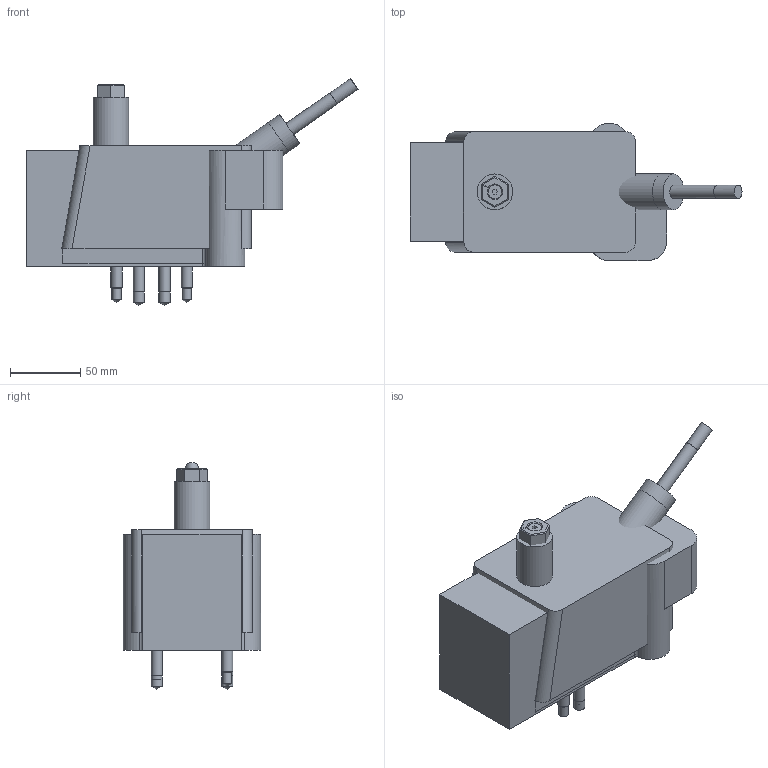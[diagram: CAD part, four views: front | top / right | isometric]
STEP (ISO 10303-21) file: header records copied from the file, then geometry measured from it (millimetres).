
FILE_DESCRIPTION(('STEP AP214'),'1');
FILE_NAME('0011_EZ-35-S-L_201209.stp','2020-12-14T12:30:07',(' '),(' '),'Spatial InterOp 3D',' ',' ');
FILE_SCHEMA(('AUTOMOTIVE_DESIGN { 1 0 10303 214 1 1 1 1 }'));
Length unit declared in the file: metre
Products named in the file (21): 1583517334; 1582908874; 1582908804; 1562099358; 1562100740; 1583159039; 1607693797; 1580688640; 1580688599; 1580688335; 1580700033; 1580702734; 1580702757; 1583925393; 1580689014; 1580689030; 1580689046; 1580689062; 1580689236; 1580689244; 1
Bounding box: 236.12 x 97.75 x 161.39 mm (x, y, z)
Volume: 2564144.4 mm3; surface area: 239879.1 mm2
Topology: 20 solids, 20 shells, 328 faces, 741 edges, 475 vertices
Faces by surface type: plane 177, cylinder 83, cone 53, bspline 8, torus 4, sphere 3
Full cylindrical faces by diameter (mm): 2.8 x1, 3.797 x1, 4.089 x1, 4.8 x1, 4.826 x3, 4.917 x1, 5 x1, 5.159 x1, 6 x1, 6.35 x1, 6.528 x2, 7.938 x11, 8.433 x1, 8.5 x2, 8.731 x1, 9.5 x1, 9.525 x4, 11.906 x2, 12.7 x4, 14.25 x2, 15.875 x1, 25.146 x1, 25.4 x1, 25.527 x1, 26.746 x2, 27 x2, 50.292 x1
Entity records: 22411 total; most frequent: CARTESIAN_POINT 12286, DIRECTION 1453, ORIENTED_EDGE 1216, EDGE_CURVE 608, AXIS2_PLACEMENT_3D 568, EDGE_LOOP 462, VERTEX_POINT 442, STYLED_ITEM 408
